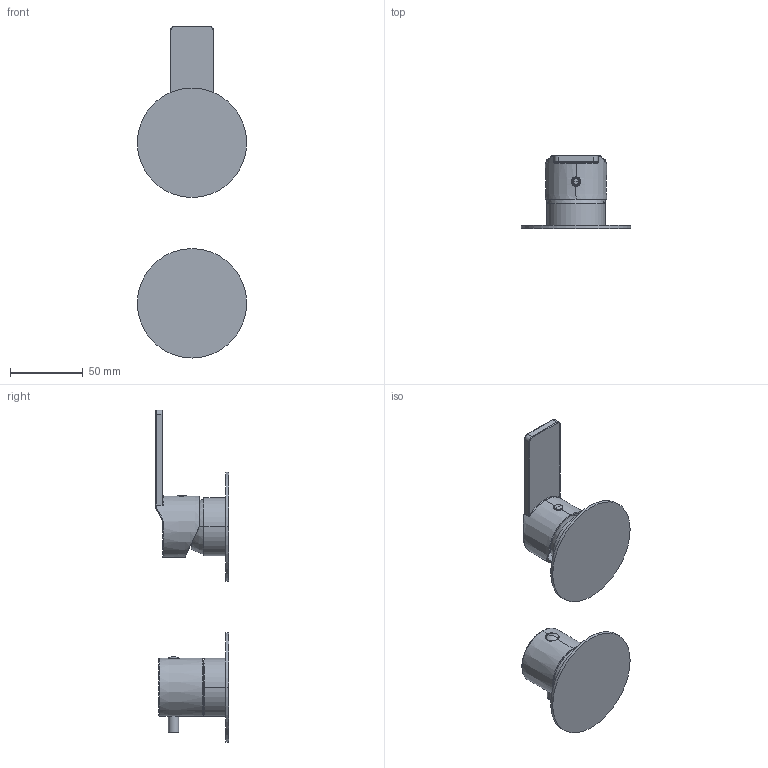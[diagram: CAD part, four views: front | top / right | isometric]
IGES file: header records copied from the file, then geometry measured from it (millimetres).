
Start section:  PTC IGES file: 47553V3.igs
Global section: file name: 47553V3.igs; native system: Creo Parametric by PTC Inc.; preprocessor: 2022014; author: carloff; organization: Unknown; date: 20241216.140913; units: millimetre
Bounding box: 75 x 50.1 x 227.5 mm (x, y, z)
Surface area: 42967 mm2 (no closed solid volume)
Topology: 0 solids, 0 shells, 243 faces, 1256 edges, 1250 vertices
Faces by surface type: revolution 137, bspline 106
